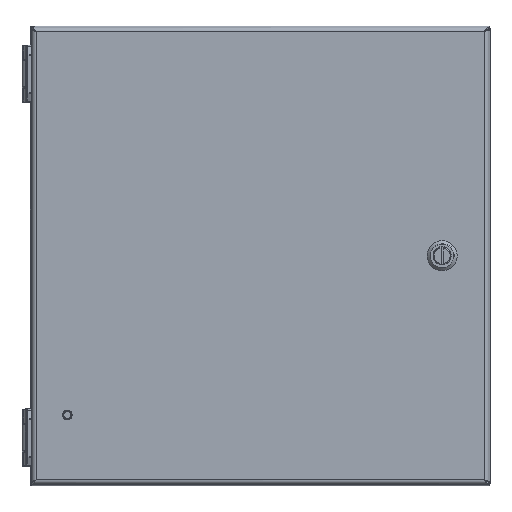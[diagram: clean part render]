
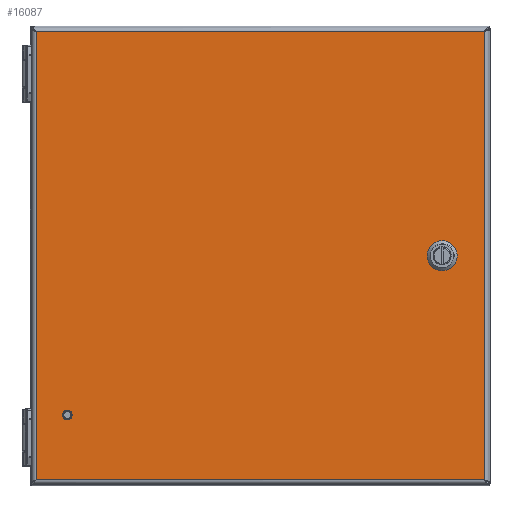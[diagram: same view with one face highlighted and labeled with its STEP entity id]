
A CAD part, top view. The second image highlights one B-rep face of the part: STEP entity #16087.
In plain terms, the highlighted planar face has unit normal (0, 0, 1).
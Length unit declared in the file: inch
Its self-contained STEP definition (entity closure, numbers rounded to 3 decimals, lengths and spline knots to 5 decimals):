
#14202=CARTESIAN_POINT('',(-5.035,-4.16,0.81));
#14203=DIRECTION('',(0.,0.,1.));
#14204=DIRECTION('',(-1.,0.,0.));
#14205=AXIS2_PLACEMENT_3D('',#14202,#14203,#14204);
#14210=CARTESIAN_POINT('',(-5.035,-4.16,0.81));
#14211=DIRECTION('',(0.,0.,1.));
#14212=DIRECTION('',(1.,0.,0.));
#14213=AXIS2_PLACEMENT_3D('',#14210,#14211,#14212);
#14218=DIRECTION('',(0.707,0.707,0.));
#14219=VECTOR('',#14218,0.30984);
#14220=CARTESIAN_POINT('',(4.44447,0.08845,0.81));
#14221=LINE('',#14220,#14219);
#14225=CARTESIAN_POINT('',(4.752,0.,0.81));
#14226=DIRECTION('',(0.,0.,1.));
#14227=DIRECTION('',(-0.961,0.276,0.));
#14228=AXIS2_PLACEMENT_3D('',#14225,#14226,#14227);
#14233=DIRECTION('',(-0.707,0.707,0.));
#14234=VECTOR('',#14233,0.30984);
#14235=CARTESIAN_POINT('',(4.66355,-0.30753,0.81));
#14236=LINE('',#14235,#14234);
#14240=CARTESIAN_POINT('',(4.752,0.,0.81));
#14241=DIRECTION('',(0.,0.,1.));
#14242=DIRECTION('',(-0.276,-0.961,0.));
#14243=AXIS2_PLACEMENT_3D('',#14240,#14241,#14242);
#14248=DIRECTION('',(-0.707,-0.707,0.));
#14249=VECTOR('',#14248,0.30984);
#14250=CARTESIAN_POINT('',(5.05953,-0.08845,0.81));
#14251=LINE('',#14250,#14249);
#14255=CARTESIAN_POINT('',(4.752,0.,0.81));
#14256=DIRECTION('',(0.,0.,1.));
#14257=DIRECTION('',(0.961,-0.276,0.));
#14258=AXIS2_PLACEMENT_3D('',#14255,#14256,#14257);
#14263=DIRECTION('',(0.707,-0.707,0.));
#14264=VECTOR('',#14263,0.30984);
#14265=CARTESIAN_POINT('',(4.84045,0.30753,0.81));
#14266=LINE('',#14265,#14264);
#14270=CARTESIAN_POINT('',(4.752,0.,0.81));
#14271=DIRECTION('',(0.,0.,1.));
#14272=DIRECTION('',(0.276,0.961,0.));
#14273=AXIS2_PLACEMENT_3D('',#14270,#14271,#14272);
#14278=DIRECTION('',(1.,0.,0.));
#14279=VECTOR('',#14278,11.7);
#14280=CARTESIAN_POINT('',(-5.85,-5.85,0.81));
#14281=LINE('',#14280,#14279);
#14370=DIRECTION('',(0.,1.,0.));
#14371=VECTOR('',#14370,11.7);
#14372=CARTESIAN_POINT('',(5.85,-5.85,0.81));
#14373=LINE('',#14372,#14371);
#14420=DIRECTION('',(-1.,0.,0.));
#14421=VECTOR('',#14420,11.7);
#14422=CARTESIAN_POINT('',(5.85,5.85,0.81));
#14423=LINE('',#14422,#14421);
#14519=DIRECTION('',(0.,-1.,0.));
#14520=VECTOR('',#14519,11.7);
#14521=CARTESIAN_POINT('',(-5.85,5.85,0.81));
#14522=LINE('',#14521,#14520);
#15816=CARTESIAN_POINT('',(-5.85,5.85,0.81));
#15817=CARTESIAN_POINT('',(-5.85,-5.85,0.81));
#15818=VERTEX_POINT('',#15816);
#15819=VERTEX_POINT('',#15817);
#15820=CARTESIAN_POINT('',(5.85,-5.85,0.81));
#15821=CARTESIAN_POINT('',(5.85,5.85,0.81));
#15822=VERTEX_POINT('',#15820);
#15823=VERTEX_POINT('',#15821);
#15888=CARTESIAN_POINT('',(-5.13305,-4.16,0.81));
#15889=CARTESIAN_POINT('',(-4.93695,-4.16,0.81));
#15890=VERTEX_POINT('',#15888);
#15891=VERTEX_POINT('',#15889);
#15896=CARTESIAN_POINT('',(4.44447,0.08845,0.81));
#15897=CARTESIAN_POINT('',(4.66355,0.30753,0.81));
#15898=VERTEX_POINT('',#15896);
#15899=VERTEX_POINT('',#15897);
#15900=CARTESIAN_POINT('',(4.84045,0.30753,0.81));
#15901=VERTEX_POINT('',#15900);
#15902=CARTESIAN_POINT('',(5.05953,0.08845,0.81));
#15903=VERTEX_POINT('',#15902);
#15904=CARTESIAN_POINT('',(5.05953,-0.08845,0.81));
#15905=VERTEX_POINT('',#15904);
#15906=CARTESIAN_POINT('',(4.84045,-0.30753,0.81));
#15907=VERTEX_POINT('',#15906);
#15908=CARTESIAN_POINT('',(4.66355,-0.30753,0.81));
#15909=VERTEX_POINT('',#15908);
#15910=CARTESIAN_POINT('',(4.44447,-0.08845,0.81));
#15911=VERTEX_POINT('',#15910);
#16048=CARTESIAN_POINT('',(0.,0.,0.81));
#16049=DIRECTION('',(0.,0.,1.));
#16050=DIRECTION('',(1.,0.,0.));
#16051=AXIS2_PLACEMENT_3D('',#16048,#16049,#16050);
#16052=PLANE('',#16051);
#16054=ORIENTED_EDGE('',*,*,#16053,.F.);
#16056=ORIENTED_EDGE('',*,*,#16055,.F.);
#16058=ORIENTED_EDGE('',*,*,#16057,.F.);
#16060=ORIENTED_EDGE('',*,*,#16059,.F.);
#16061=EDGE_LOOP('',(#16054,#16056,#16058,#16060));
#16062=FACE_OUTER_BOUND('',#16061,.F.);
#16064=ORIENTED_EDGE('',*,*,#16063,.T.);
#16066=ORIENTED_EDGE('',*,*,#16065,.T.);
#16067=EDGE_LOOP('',(#16064,#16066));
#16068=FACE_BOUND('',#16067,.F.);
#16070=ORIENTED_EDGE('',*,*,#16069,.F.);
#16072=ORIENTED_EDGE('',*,*,#16071,.T.);
#16074=ORIENTED_EDGE('',*,*,#16073,.F.);
#16076=ORIENTED_EDGE('',*,*,#16075,.T.);
#16078=ORIENTED_EDGE('',*,*,#16077,.F.);
#16080=ORIENTED_EDGE('',*,*,#16079,.T.);
#16082=ORIENTED_EDGE('',*,*,#16081,.F.);
#16084=ORIENTED_EDGE('',*,*,#16083,.T.);
#16085=EDGE_LOOP('',(#16070,#16072,#16074,#16076,#16078,#16080,#16082,#16084));
#16086=FACE_BOUND('',#16085,.F.);
#14206=CIRCLE('',#14205,0.09805);
#14214=CIRCLE('',#14213,0.09805);
#14229=CIRCLE('',#14228,0.32);
#14244=CIRCLE('',#14243,0.32);
#14259=CIRCLE('',#14258,0.32);
#14274=CIRCLE('',#14273,0.32);
#16053=EDGE_CURVE('',#15819,#15822,#14281,.T.);
#16055=EDGE_CURVE('',#15818,#15819,#14522,.T.);
#16057=EDGE_CURVE('',#15823,#15818,#14423,.T.);
#16059=EDGE_CURVE('',#15822,#15823,#14373,.T.);
#16063=EDGE_CURVE('',#15890,#15891,#14206,.T.);
#16065=EDGE_CURVE('',#15891,#15890,#14214,.T.);
#16069=EDGE_CURVE('',#15898,#15899,#14221,.T.);
#16071=EDGE_CURVE('',#15898,#15911,#14229,.T.);
#16073=EDGE_CURVE('',#15909,#15911,#14236,.T.);
#16075=EDGE_CURVE('',#15909,#15907,#14244,.T.);
#16077=EDGE_CURVE('',#15905,#15907,#14251,.T.);
#16079=EDGE_CURVE('',#15905,#15903,#14259,.T.);
#16081=EDGE_CURVE('',#15901,#15903,#14266,.T.);
#16083=EDGE_CURVE('',#15901,#15899,#14274,.T.);
#16087=ADVANCED_FACE('',(#16062,#16068,#16086),#16052,.T.);
